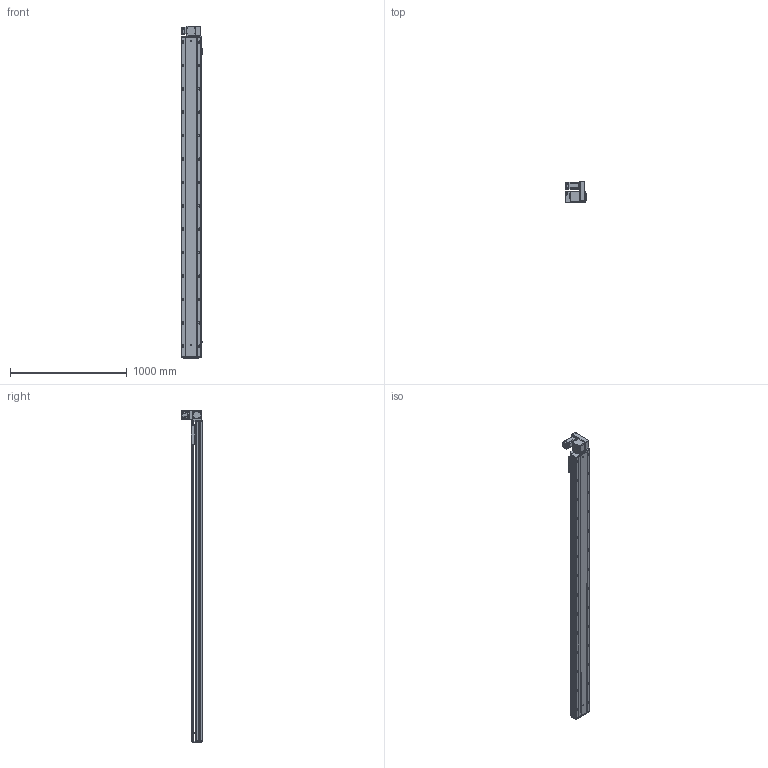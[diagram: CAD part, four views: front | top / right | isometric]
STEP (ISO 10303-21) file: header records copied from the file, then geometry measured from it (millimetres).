
FILE_DESCRIPTION (( 'STEP AP203' ), '1' );
FILE_NAME ('RY170-T-300-UR-P400W.SLDASM_2450.step', '2021-03-01T09:29:48', ( '盈信电脑' ), ( '东莞市道滘镇水果街19号' ), 'SwSTEP 2.0', 'SolidWorks 2012', '' );
FILE_SCHEMA (( 'CONFIG_CONTROL_DESIGN' ));
Length unit declared in the file: millimetre
Products named in the file (18): 15; RY170-T-300-UR-P400W.SLDASM_2450; RY170-T蹟翐M4; RY120-T主同步轮轴承压盖; 滅袉蝶18-10; RY170-T肮祭謫裔啣; RY170肮祭謫萇儂欶; RY170-T肮祭湍揤踡輸2; RY170-T肮祭湍揤踡輸1; RY170肮祭謫ヶ裔啣; RY170同步轮电机安装板(400W); RY170外置感应片(200共用）; RY170翋肮祭謫釱; RY170肮祭湍臏賑輸; RY170-T-300肮祭謫倰第裔啣-DR_2450; RY170綴裔啣; 覜茼ん672; RY170-T-300肮祭謫倰第菁釱-DR_2450
Assembly tree (22 placements, depth 2):
  RY170-T-300-UR-P400W.SLDASM_2450
    RY170-T-300肮祭謫倰第菁釱-DR_2450
    RY170肮祭湍臏賑輸
    RY170-T-300肮祭謫倰第裔啣-DR_2450
    RY170綴裔啣
    覜茼ん672  x3
    RY170外置感应片(200共用）
    RY170肮祭謫ヶ裔啣
    RY170翋肮祭謫釱
    RY170同步轮电机安装板(400W)
    RY170肮祭謫萇儂欶
    RY170-T肮祭湍揤踡輸1  x2
    RY170-T肮祭湍揤踡輸2  x2
    RY120-T主同步轮轴承压盖
    RY170-T肮祭謫裔啣
    RY170-T蹟翐M4
    滅袉蝶18-10  x2
    15
Bounding box: 183.7 x 182 x 2838 mm (x, y, z)
Volume: 12961203.4 mm3; surface area: 4485121 mm2
Topology: 22 solids, 22 shells, 3132 faces, 8830 edges, 5615 vertices
Faces by surface type: cylinder 1492, plane 1274, cone 336, bspline 30
Entity records: 96328 total; most frequent: CARTESIAN_POINT 22775, ORIENTED_EDGE 15168, DIRECTION 14692, EDGE_CURVE 7584, AXIS2_PLACEMENT_3D 5242, VERTEX_POINT 4971, VECTOR 4208, LINE 4208
